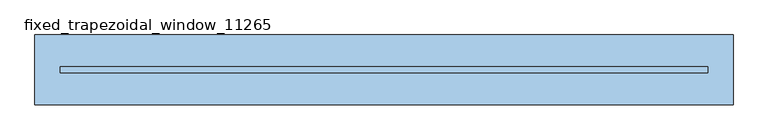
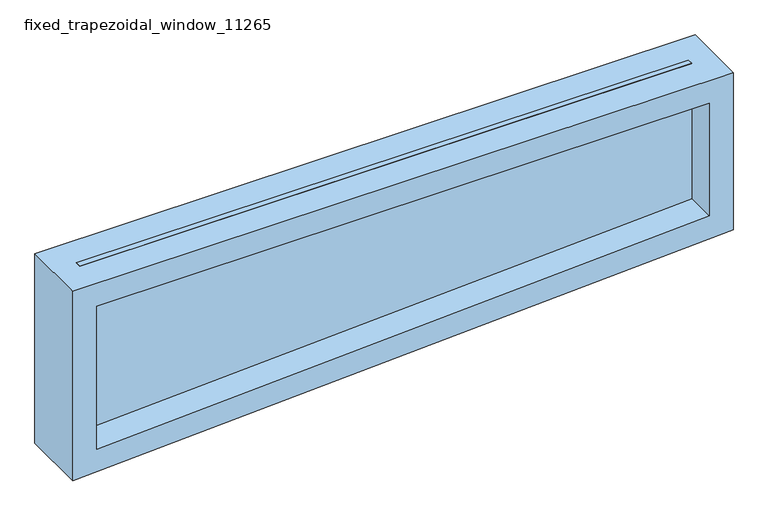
"""IFC4 building model written with IfcOpenShell, lengths in millimetres: window geometry, fixed_trapezoidal_window_11265 : Menuiserie 11.3."""

from ifc_helpers import new_model, si_unit, frame, origin, place, context, project, spatial, polyline, outline, extrude, source, transform, mapped, element, save


def fixed_trapezoidal_window_11265_c27a5a7f(model_context):
    return source(origin(), model_context, "Body", "SweptSolid", [
        extrude(outline(polyline([(1644.2, -687.3), (1272.7320304, -687.3), (1340.778291, 611.1), (1644.2, 611.1), (1644.2, -687.3)])), frame((0.0, -6.35, 0.0), z_axis=(0.0, 1.0, 0.0), x_axis=(0.0, 0.0, 1.0)), (0.0, 0.0, 1.0), 12.7),
        extrude(outline(polyline([(1644.2, 661.9), (1644.2, -738.1), (1219.2, -738.1), (1292.570891, 661.9), (1644.2, 661.9)]), holes=[polyline([(1593.4, 611.1), (1340.778291, 611.1), (1272.7320304, -687.3), (1593.4, -687.3), (1593.4, 611.1)])]), frame((0.0, -69.85, 0.0), z_axis=(0.0, 1.0, 0.0), x_axis=(0.0, 0.0, 1.0)), (0.0, 0.0, 1.0), 139.7),
    ])


if __name__ == "__main__":
    model = new_model("IFC4")
    model_context = context("Model", 3, world=origin())
    ifc_project = project(units=[si_unit("LENGTHUNIT", "METRE", prefix="MILLI")], contexts=[model_context])
    site = spatial("IfcSite", under=ifc_project)
    building = spatial("IfcBuilding", under=site)
    placement = place(None, origin())
    fixed_trapezoidal_window_11265_shape = fixed_trapezoidal_window_11265_c27a5a7f(model_context)
    element("IfcWindow", 1, ObjectType="fixed_trapezoidal_window_11265 : Menuiserie 11.3", at=placement, inside=building, context=model_context, shape_type="MappedRepresentation", body=[
        mapped(fixed_trapezoidal_window_11265_shape, transform((0.0, 0.0, 0.0), x_axis=(1.0, 0.0, 0.0), y_axis=(0.0, 1.0, 0.0), z_axis=(0.0, 0.0, 1.0))),
    ])
    save(model, "model.ifc")
